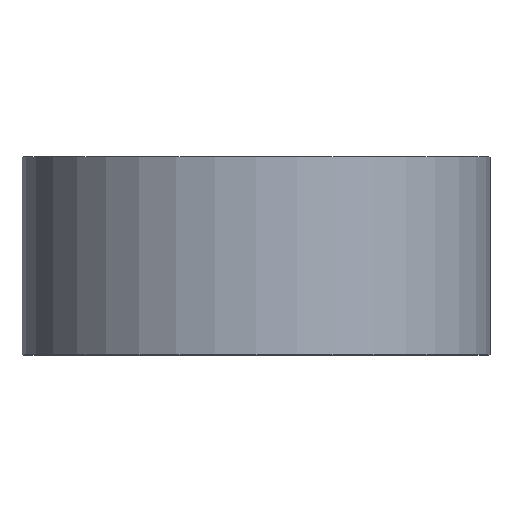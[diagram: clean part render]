
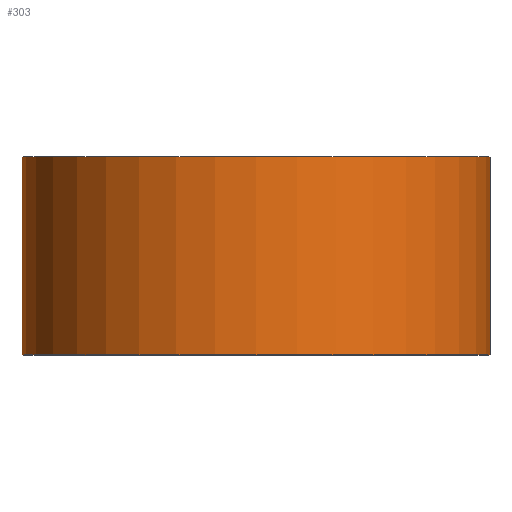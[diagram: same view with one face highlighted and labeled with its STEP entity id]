
A CAD part, top view. The second image highlights one B-rep face of the part: STEP entity #303.
In plain terms, the highlighted cylindrical face has radius 13 mm (diameter 26 mm), a partial arc.
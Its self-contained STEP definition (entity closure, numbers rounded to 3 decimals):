
#142=CARTESIAN_POINT('Axis2P3D Location',(-30.846,11.,-134.126)) ;
#146=CARTESIAN_POINT('Vertex',(-43.846,11.,-134.126)) ;
#148=CARTESIAN_POINT('Vertex',(-17.846,11.,-134.126)) ;
#273=CARTESIAN_POINT('Axis2P3D Location',(-30.846,5.5,-134.126)) ;
#278=CARTESIAN_POINT('Line Origine',(-43.846,5.5,-134.126)) ;
#282=CARTESIAN_POINT('Vertex',(-43.846,0.,-134.126)) ;
#285=CARTESIAN_POINT('Axis2P3D Location',(-30.846,0.,-134.126)) ;
#289=CARTESIAN_POINT('Vertex',(-17.846,0.,-134.126)) ;
#292=CARTESIAN_POINT('Line Origine',(-17.846,5.5,-134.126)) ;
#143=DIRECTION('Axis2P3D Direction',(0.,1.,-0.)) ;
#274=DIRECTION('Axis2P3D Direction',(0.,1.,-0.)) ;
#275=DIRECTION('Axis2P3D XDirection',(-1.,0.,0.)) ;
#279=DIRECTION('Vector Direction',(0.,1.,0.)) ;
#286=DIRECTION('Axis2P3D Direction',(0.,1.,-0.)) ;
#293=DIRECTION('Vector Direction',(0.,1.,0.)) ;
#144=AXIS2_PLACEMENT_3D('Circle Axis2P3D',#142,#143,$) ;
#276=AXIS2_PLACEMENT_3D('Cylinder Axis2P3D',#273,#274,#275) ;
#287=AXIS2_PLACEMENT_3D('Circle Axis2P3D',#285,#286,$) ;
#298=ORIENTED_EDGE('',*,*,#284,.F.) ;
#299=ORIENTED_EDGE('',*,*,#291,.T.) ;
#300=ORIENTED_EDGE('',*,*,#296,.T.) ;
#301=ORIENTED_EDGE('',*,*,#150,.F.) ;
#280=VECTOR('Line Direction',#279,1.) ;
#294=VECTOR('Line Direction',#293,1.) ;
#303=ADVANCED_FACE('Corps principal',(#302),#277,.T.) ;
#145=CIRCLE('generated circle',#144,13.) ;
#288=CIRCLE('generated circle',#287,13.) ;
#277=CYLINDRICAL_SURFACE('generated cylinder',#276,13.) ;
#150=EDGE_CURVE('',#147,#149,#145,.T.) ;
#284=EDGE_CURVE('',#283,#147,#281,.T.) ;
#291=EDGE_CURVE('',#283,#290,#288,.T.) ;
#296=EDGE_CURVE('',#290,#149,#295,.T.) ;
#297=EDGE_LOOP('',(#298,#299,#300,#301)) ;
#302=FACE_OUTER_BOUND('',#297,.T.) ;
#281=LINE('Line',#278,#280) ;
#295=LINE('Line',#292,#294) ;
#147=VERTEX_POINT('',#146) ;
#149=VERTEX_POINT('',#148) ;
#283=VERTEX_POINT('',#282) ;
#290=VERTEX_POINT('',#289) ;
